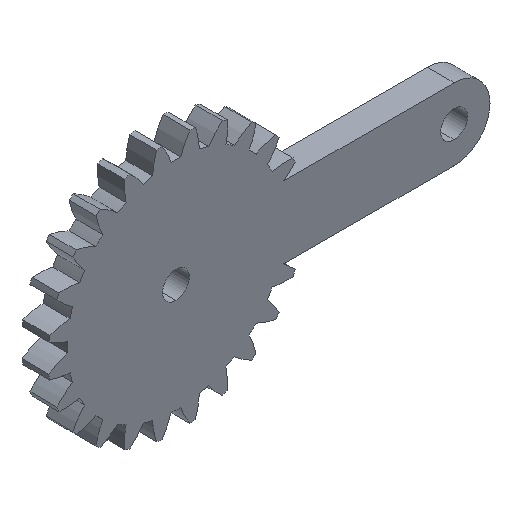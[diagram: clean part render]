
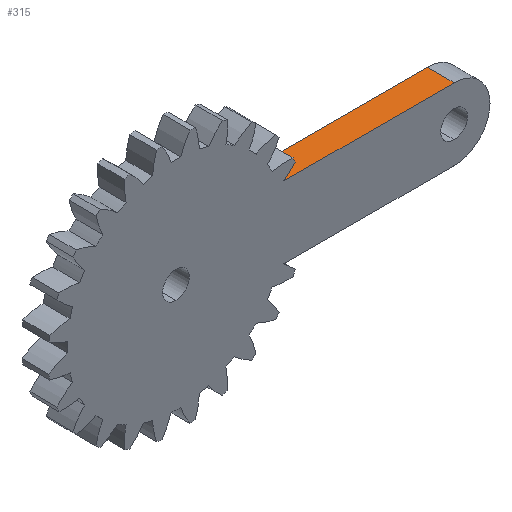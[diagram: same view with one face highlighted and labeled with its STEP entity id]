
A CAD part, isometric view. The second image highlights one B-rep face of the part: STEP entity #315.
In plain terms, the highlighted planar face has unit normal (0, 0, 1).
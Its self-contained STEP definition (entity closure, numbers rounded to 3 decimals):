
#179 = CARTESIAN_POINT ( 'NONE',  ( 56.511, 4.5, 8. ) ) ;
#186 = VECTOR ( 'NONE', #2591, 1000. ) ;
#315 = ADVANCED_FACE ( 'NONE', ( #2224 ), #3326, .F. ) ;
#379 = ORIENTED_EDGE ( 'NONE', *, *, #1426, .T. ) ;
#551 = CARTESIAN_POINT ( 'NONE',  ( 18.576, -1.5, 8. ) ) ;
#653 = CARTESIAN_POINT ( 'NONE',  ( 56.511, 4.5, 8. ) ) ;
#717 = LINE ( 'NONE', #3219, #3167 ) ;
#834 = CARTESIAN_POINT ( 'NONE',  ( 56.511, 4.5, 8. ) ) ;
#864 = CARTESIAN_POINT ( 'NONE',  ( 18.576, 4.5, 8. ) ) ;
#978 = EDGE_CURVE ( 'NONE', #1732, #2163, #717, .T. ) ;
#1387 = CARTESIAN_POINT ( 'NONE',  ( 18.576, 4.5, 8. ) ) ;
#1410 = DIRECTION ( 'NONE',  ( 0., 0., -1. ) ) ;
#1417 = VECTOR ( 'NONE', #2199, 1000. ) ;
#1426 = EDGE_CURVE ( 'NONE', #2084, #2163, #1502, .T. ) ;
#1434 = ORIENTED_EDGE ( 'NONE', *, *, #2261, .F. ) ;
#1441 = DIRECTION ( 'NONE',  ( 1., 0., 0. ) ) ;
#1455 = CARTESIAN_POINT ( 'NONE',  ( 56.511, -1.5, 8. ) ) ;
#1502 = LINE ( 'NONE', #1777, #186 ) ;
#1702 = ORIENTED_EDGE ( 'NONE', *, *, #2033, .T. ) ;
#1732 = VERTEX_POINT ( 'NONE', #179 ) ;
#1777 = CARTESIAN_POINT ( 'NONE',  ( 56.511, -1.5, 8. ) ) ;
#1936 = DIRECTION ( 'NONE',  ( -1., 0., 0. ) ) ;
#1968 = AXIS2_PLACEMENT_3D ( 'NONE', #834, #1410, #1936 ) ;
#2033 = EDGE_CURVE ( 'NONE', #3231, #2084, #3024, .T. ) ;
#2084 = VERTEX_POINT ( 'NONE', #551 ) ;
#2129 = ORIENTED_EDGE ( 'NONE', *, *, #978, .F. ) ;
#2163 = VERTEX_POINT ( 'NONE', #1455 ) ;
#2199 = DIRECTION ( 'NONE',  ( 0., -1., 0. ) ) ;
#2224 = FACE_OUTER_BOUND ( 'NONE', #3098, .T. ) ;
#2261 = EDGE_CURVE ( 'NONE', #3231, #1732, #2829, .T. ) ;
#2306 = DIRECTION ( 'NONE',  ( 0., -1., 0. ) ) ;
#2579 = VECTOR ( 'NONE', #1441, 1000. ) ;
#2591 = DIRECTION ( 'NONE',  ( 1., 0., 0. ) ) ;
#2829 = LINE ( 'NONE', #653, #2579 ) ;
#3024 = LINE ( 'NONE', #864, #1417 ) ;
#3098 = EDGE_LOOP ( 'NONE', ( #379, #2129, #1434, #1702 ) ) ;
#3167 = VECTOR ( 'NONE', #2306, 1000. ) ;
#3219 = CARTESIAN_POINT ( 'NONE',  ( 56.511, 4.5, 8. ) ) ;
#3231 = VERTEX_POINT ( 'NONE', #1387 ) ;
#3326 = PLANE ( 'NONE',  #1968 ) ;
